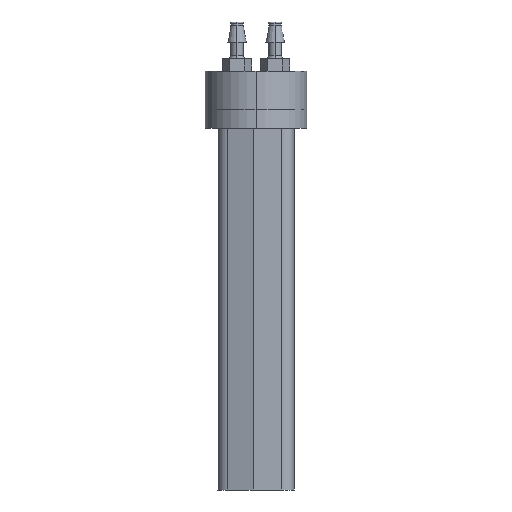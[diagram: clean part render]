
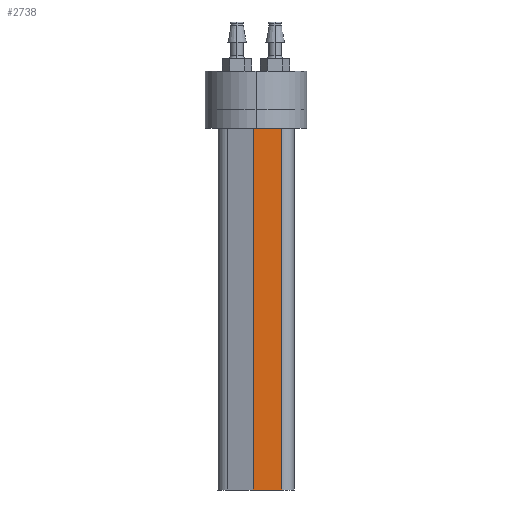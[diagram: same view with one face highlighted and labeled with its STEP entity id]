
A CAD part, left-side view. The second image highlights one B-rep face of the part: STEP entity #2738.
In plain terms, the highlighted planar face has unit normal (-1, 0, 0).
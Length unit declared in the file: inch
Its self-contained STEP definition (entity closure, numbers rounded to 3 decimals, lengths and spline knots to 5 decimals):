
#359 = CARTESIAN_POINT ( 'NONE',  ( -0.188, -0.255, -4.125 ) ) ;
#390 = CARTESIAN_POINT ( 'NONE',  ( -0.188, 0.02847, -0.465 ) ) ;
#438 = CARTESIAN_POINT ( 'NONE',  ( -0.188, -0.255, -0.465 ) ) ;
#456 = CARTESIAN_POINT ( 'NONE',  ( -0.188, 0.02847, -4.125 ) ) ;
#672 = CARTESIAN_POINT ( 'NONE',  ( -0.188, -0.255, -4.125 ) ) ;
#697 = CARTESIAN_POINT ( 'NONE',  ( -0.188, -0.255, -0.465 ) ) ;
#721 = DIRECTION ( 'NONE',  ( 0., 1., 0. ) ) ;
#731 = CARTESIAN_POINT ( 'NONE',  ( -0.188, 0.02847, 1.42836 ) ) ;
#749 = DIRECTION ( 'NONE',  ( 0., 1., 0. ) ) ;
#759 = CARTESIAN_POINT ( 'NONE',  ( -0.188, -0.255, 1.42836 ) ) ;
#767 = DIRECTION ( 'NONE',  ( 0., 0., -1. ) ) ;
#820 = DIRECTION ( 'NONE',  ( 0., 0., -1. ) ) ;
#1355 = EDGE_CURVE ( 'NONE', #3338, #3287, #2950, .T. ) ;
#1359 = EDGE_CURVE ( 'NONE', #3307, #3340, #2930, .T. ) ;
#1361 = EDGE_CURVE ( 'NONE', #3287, #3340, #2964, .T. ) ;
#1370 = EDGE_CURVE ( 'NONE', #3338, #3307, #2922, .T. ) ;
#1832 = AXIS2_PLACEMENT_3D ( 'NONE', #4655, #4657, #4637 ) ;
#2507 = FACE_OUTER_BOUND ( 'NONE', #3477, .T. ) ;
#2738 = ADVANCED_FACE ( 'NONE', ( #2507 ), #4645, .T. ) ;
#2922 = LINE ( 'NONE', #759, #2968 ) ;
#2930 = LINE ( 'NONE', #672, #2931 ) ;
#2931 = VECTOR ( 'NONE', #749, 39.37008 ) ;
#2945 = VECTOR ( 'NONE', #721, 39.37008 ) ;
#2946 = VECTOR ( 'NONE', #767, 39.37008 ) ;
#2950 = LINE ( 'NONE', #697, #2945 ) ;
#2964 = LINE ( 'NONE', #731, #2946 ) ;
#2968 = VECTOR ( 'NONE', #820, 39.37008 ) ;
#3287 = VERTEX_POINT ( 'NONE', #390 ) ;
#3307 = VERTEX_POINT ( 'NONE', #359 ) ;
#3338 = VERTEX_POINT ( 'NONE', #438 ) ;
#3340 = VERTEX_POINT ( 'NONE', #456 ) ;
#3477 = EDGE_LOOP ( 'NONE', ( #3640, #3678, #3670, #3641 ) ) ;
#3640 = ORIENTED_EDGE ( 'NONE', *, *, #1370, .F. ) ;
#3641 = ORIENTED_EDGE ( 'NONE', *, *, #1359, .F. ) ;
#3670 = ORIENTED_EDGE ( 'NONE', *, *, #1361, .T. ) ;
#3678 = ORIENTED_EDGE ( 'NONE', *, *, #1355, .T. ) ;
#4637 = DIRECTION ( 'NONE',  ( 0., -1., 0. ) ) ;
#4645 = PLANE ( 'NONE',  #1832 ) ;
#4655 = CARTESIAN_POINT ( 'NONE',  ( -0.188, -0.255, 1.42836 ) ) ;
#4657 = DIRECTION ( 'NONE',  ( -1., 0., 0. ) ) ;
